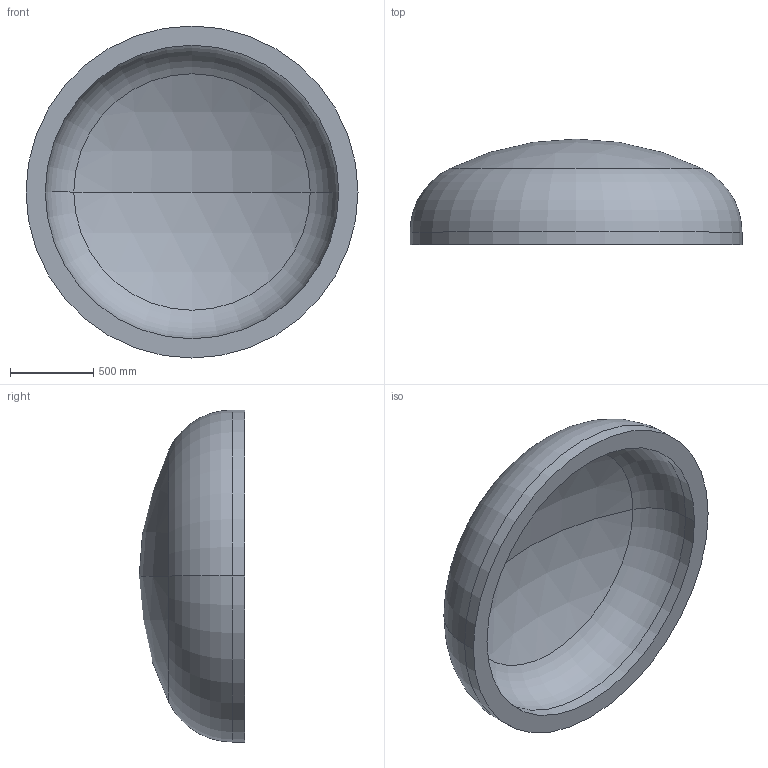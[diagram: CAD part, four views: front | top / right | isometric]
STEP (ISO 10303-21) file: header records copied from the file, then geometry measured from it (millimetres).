
FILE_DESCRIPTION (( 'STEP AP203' ), '1' );
FILE_NAME ('DIN 28013 Korbbogenform_-_Boden DIN 28013 - 2000 x 75 - I - s=116.step', '2016-07-01T14:13:23', ( '' ), ( '' ), 'SwSTEP 2.0', 'SolidWorks 2013', '' );
FILE_SCHEMA (( 'CONFIG_CONTROL_DESIGN' ));
Length unit declared in the file: millimetre
Products named in the file (1): DIN 28013 Korbbogenform_-_Boden DIN 28013 - 2000 x 75 - I - s=116
Bounding box: 2000 x 635.74 x 2000 mm (x, y, z)
Volume: 520818833 mm3; surface area: 9694391.1 mm2
Topology: 1 solids, 1 shells, 13 faces, 24 edges, 14 vertices
Faces by surface type: torus 4, cylinder 4, sphere 4, plane 1
Entity records: 407 total; most frequent: DIRECTION 72, CARTESIAN_POINT 52, ORIENTED_EDGE 48, AXIS2_PLACEMENT_3D 34, EDGE_CURVE 24, CIRCLE 20, VERTEX_POINT 14, EDGE_LOOP 14
